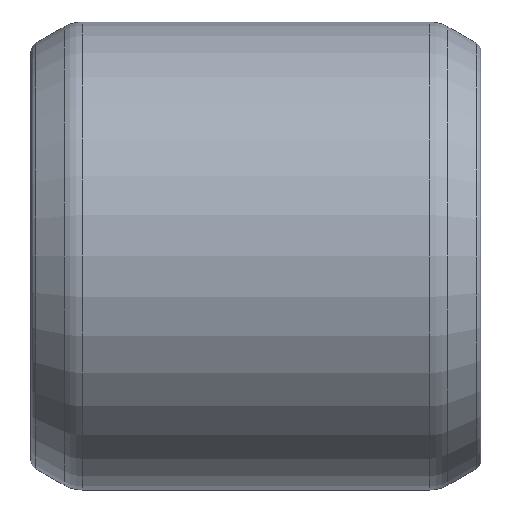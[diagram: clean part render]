
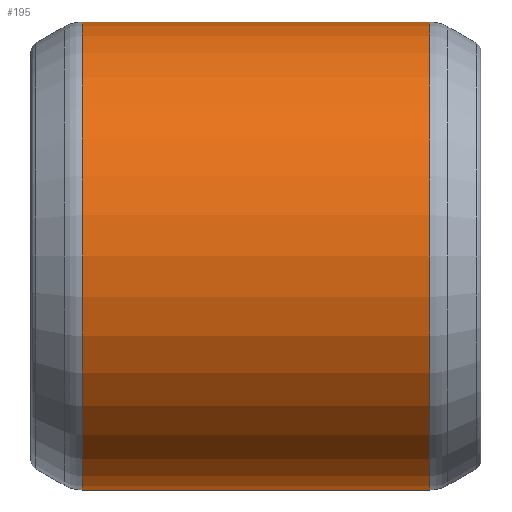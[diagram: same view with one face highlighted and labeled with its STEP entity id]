
A CAD part, front view. The second image highlights one B-rep face of the part: STEP entity #195.
In plain terms, the highlighted cylindrical face has radius 13 mm (diameter 26 mm), a full revolution.
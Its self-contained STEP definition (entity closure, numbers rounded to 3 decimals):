
#15=CYLINDRICAL_SURFACE('',#240,13.);
#22=LINE('',#362,#28);
#28=VECTOR('',#293,13.);
#41=FACE_OUTER_BOUND('',#54,.T.);
#54=EDGE_LOOP('',(#150,#151,#152,#153,#154,#155));
#71=CIRCLE('',#238,13.);
#72=CIRCLE('',#239,13.);
#73=CIRCLE('',#241,13.);
#74=CIRCLE('',#242,13.);
#91=VERTEX_POINT('',#355);
#92=VERTEX_POINT('',#357);
#93=VERTEX_POINT('',#361);
#94=VERTEX_POINT('',#363);
#112=EDGE_CURVE('',#91,#92,#71,.T.);
#113=EDGE_CURVE('',#92,#91,#72,.T.);
#114=EDGE_CURVE('',#92,#93,#22,.T.);
#115=EDGE_CURVE('',#94,#93,#73,.T.);
#116=EDGE_CURVE('',#93,#94,#74,.T.);
#150=ORIENTED_EDGE('',*,*,#113,.F.);
#151=ORIENTED_EDGE('',*,*,#114,.T.);
#152=ORIENTED_EDGE('',*,*,#115,.F.);
#153=ORIENTED_EDGE('',*,*,#116,.F.);
#154=ORIENTED_EDGE('',*,*,#114,.F.);
#155=ORIENTED_EDGE('',*,*,#112,.F.);
#195=ADVANCED_FACE('',(#41),#15,.T.);
#238=AXIS2_PLACEMENT_3D('',#358,#287,#288);
#239=AXIS2_PLACEMENT_3D('',#359,#289,#290);
#240=AXIS2_PLACEMENT_3D('',#360,#291,#292);
#241=AXIS2_PLACEMENT_3D('',#364,#294,#295);
#242=AXIS2_PLACEMENT_3D('',#365,#296,#297);
#287=DIRECTION('center_axis',(1.,0.,0.));
#288=DIRECTION('ref_axis',(0.,-1.,0.));
#289=DIRECTION('center_axis',(1.,0.,0.));
#290=DIRECTION('ref_axis',(0.,-1.,0.));
#291=DIRECTION('center_axis',(1.,0.,0.));
#292=DIRECTION('ref_axis',(0.,-1.,0.));
#293=DIRECTION('',(-1.,0.,0.));
#294=DIRECTION('center_axis',(-1.,0.,0.));
#295=DIRECTION('ref_axis',(0.,-1.,0.));
#296=DIRECTION('center_axis',(-1.,0.,0.));
#297=DIRECTION('ref_axis',(0.,-1.,0.));
#355=CARTESIAN_POINT('',(22.164,0.,13.));
#357=CARTESIAN_POINT('',(22.164,13.,0.));
#358=CARTESIAN_POINT('Origin',(22.164,0.,0.));
#359=CARTESIAN_POINT('Origin',(22.164,0.,0.));
#360=CARTESIAN_POINT('Origin',(0.,0.,0.));
#361=CARTESIAN_POINT('',(2.836,13.,0.));
#362=CARTESIAN_POINT('',(0.,13.,0.));
#363=CARTESIAN_POINT('',(2.836,0.,-13.));
#364=CARTESIAN_POINT('Origin',(2.836,0.,0.));
#365=CARTESIAN_POINT('Origin',(2.836,0.,0.));
